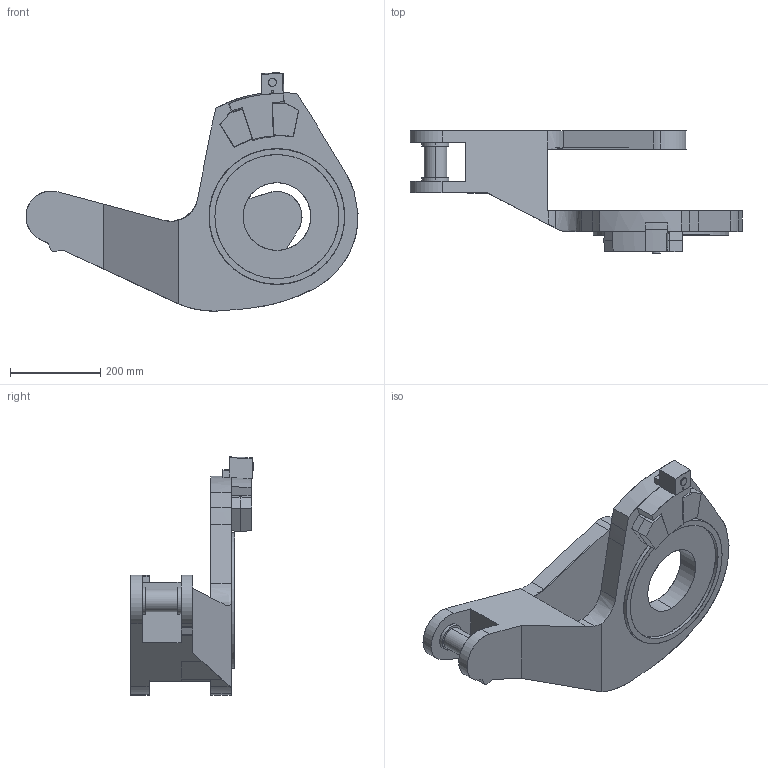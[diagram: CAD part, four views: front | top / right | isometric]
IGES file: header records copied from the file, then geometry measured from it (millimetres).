
Start section: SolidWorks IGES file using analytic representation for surfaces
Global section: file name: C:\Data\Lättmodeller\Nytt\660\IRB660_180-315_IRC5_rev03\IRB660_180-315_IRC5_rev03_IRC5_IGES_j\IRB660_180-315_LINKARM_CAD_rev02.IGS; native system: SolidWorks 2014; preprocessor: SolidWorks 2014; author: seadbov; date: 161202.130140; units: millimetre
Bounding box: 736.38 x 272.5 x 528.29 mm (x, y, z)
Surface area: 793023.2 mm2 (no closed solid volume)
Topology: 0 solids, 0 shells, 123 faces, 1852 edges, 1852 vertices
Faces by surface type: bspline 87, revolution 36
